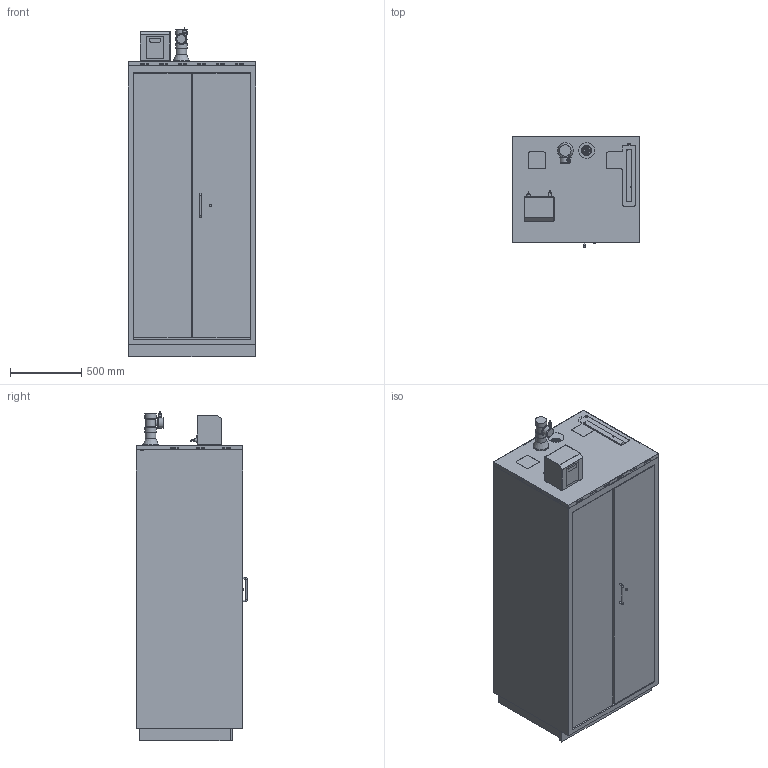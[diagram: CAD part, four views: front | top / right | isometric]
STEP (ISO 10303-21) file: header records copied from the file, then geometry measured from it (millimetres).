
FILE_DESCRIPTION(/* description */ ('Unknown'),/* implementation_level */ '2;1');
FILE_NAME(/* name */ 'SUPPLY COMPACT LL_D00108764',/* time_stamp */ '2020-11-17T09:41:34+01:00',/* author */ ('Unknown'),/* organization */ ('Unknown'),/* preprocessor_version */ 'ST-DEVELOPER v16.7',/* originating_system */ 'Solid Edge',/* authorisation */ 'Unknown');
FILE_SCHEMA (('AUTOMOTIVE_DESIGN {1 0 10303 214 3 1 1}'));
Length unit declared in the file: millimetre
Products named in the file (1): SUPPLY COMPACT LL_D00108764
Bounding box: 894 x 782 x 2317.42 mm (x, y, z)
Volume: 1316322747.1 mm3; surface area: 10841471.6 mm2
Topology: 2 solids, 2 shells, 332 faces, 856 edges, 559 vertices
Faces by surface type: plane 230, cylinder 83, sphere 8, torus 4, cone 4, bspline 3
Full cylindrical faces by diameter (mm): 6 x3, 6.2 x3, 7.5 x2, 12 x3, 18 x5, 20 x1, 22 x3, 45 x1, 70 x1, 72 x1, 75 x1, 80 x3, 109.5 x1, 112 x2
Entity records: 12209 total; most frequent: CARTESIAN_POINT 1796, DIRECTION 1621, ORIENTED_EDGE 1590, EDGE_CURVE 795, LINE 617, VECTOR 617, VERTEX_POINT 542, AXIS2_PLACEMENT_3D 502
